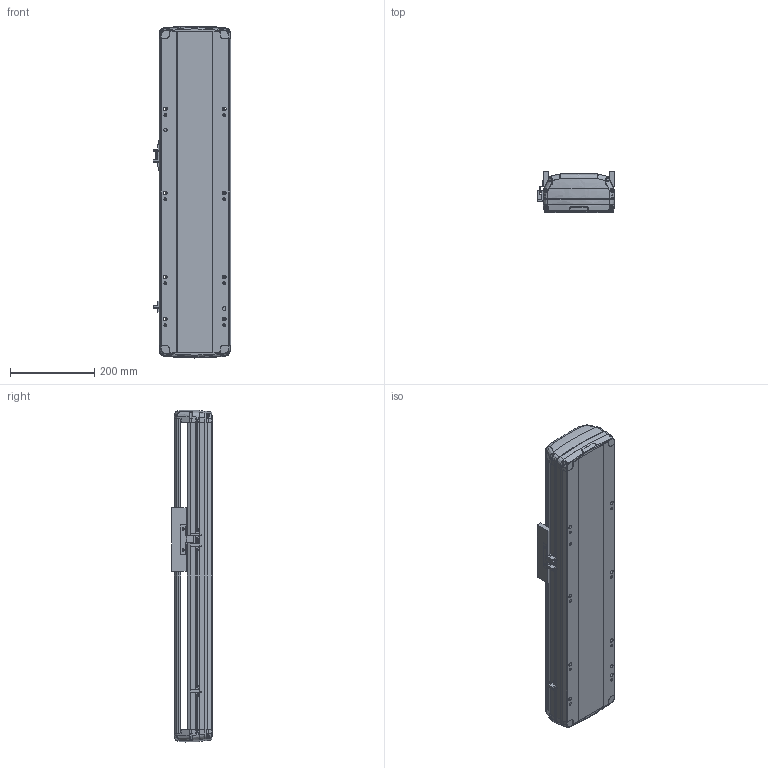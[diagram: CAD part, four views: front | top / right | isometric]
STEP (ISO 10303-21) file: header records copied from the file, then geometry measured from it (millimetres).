
FILE_DESCRIPTION (( 'STEP AP214' ), '1' );
FILE_NAME ('RTH17-XX-350-B-M40B-C4.STEP', '2025-10-24T09:14:10', ( '' ), ( '' ), 'SwSTEP 2.0', 'SolidWorks 2018', '' );
FILE_SCHEMA (( 'AUTOMOTIVE_DESIGN' ));
Length unit declared in the file: millimetre
Products named in the file (7): N_OMRON EE-SX672 換覜ん^RTH17-XX-XX-B-M40B-C4ㄗ源最宒ㄘ; N_RTH17-GY-001P^RTH17-XX-XX-B-M40B-C4（方程式）; N_RTH17-E-004丝杆螺母连接座^RTH17-XX-XX-B-M40B-C4（方程式）; N_RTH-L-012 感应片(外置)^RTH17-XX-XX-B-M40B-C4（方程式）; N_RTH17-M-007B上盖^RTH17-XX-XX-B-M40B-C4（方程式）; N_RTH17-M-011B底座^RTH17-XX-XX-B-M40B-C4（方程式）; RTH17-XX-350-B-M40B-C4
Assembly tree (9 placements, depth 2):
  RTH17-XX-350-B-M40B-C4
    N_RTH17-M-011B底座^RTH17-XX-XX-B-M40B-C4（方程式）
    N_RTH17-M-007B上盖^RTH17-XX-XX-B-M40B-C4（方程式）
    N_OMRON EE-SX672 換覜ん^RTH17-XX-XX-B-M40B-C4ㄗ源最宒ㄘ  x3
    N_RTH-L-012 感应片(外置)^RTH17-XX-XX-B-M40B-C4（方程式）
    N_RTH17-E-004丝杆螺母连接座^RTH17-XX-XX-B-M40B-C4（方程式）
    N_RTH17-GY-001P^RTH17-XX-XX-B-M40B-C4（方程式）  x2
Bounding box: 183.5 x 97 x 790.04 mm (x, y, z)
Volume: 5964998.5 mm3; surface area: 868514.5 mm2
Topology: 7 solids, 11 shells, 1704 faces, 4772 edges, 3098 vertices
Faces by surface type: plane 807, cylinder 431, bspline 420, cone 28, torus 18
Entity records: 39510 total; most frequent: CARTESIAN_POINT 16535, ORIENTED_EDGE 5048, DIRECTION 3976, EDGE_CURVE 2528, VERTEX_POINT 1652, VECTOR 1400, LINE 1400, AXIS2_PLACEMENT_3D 1288
